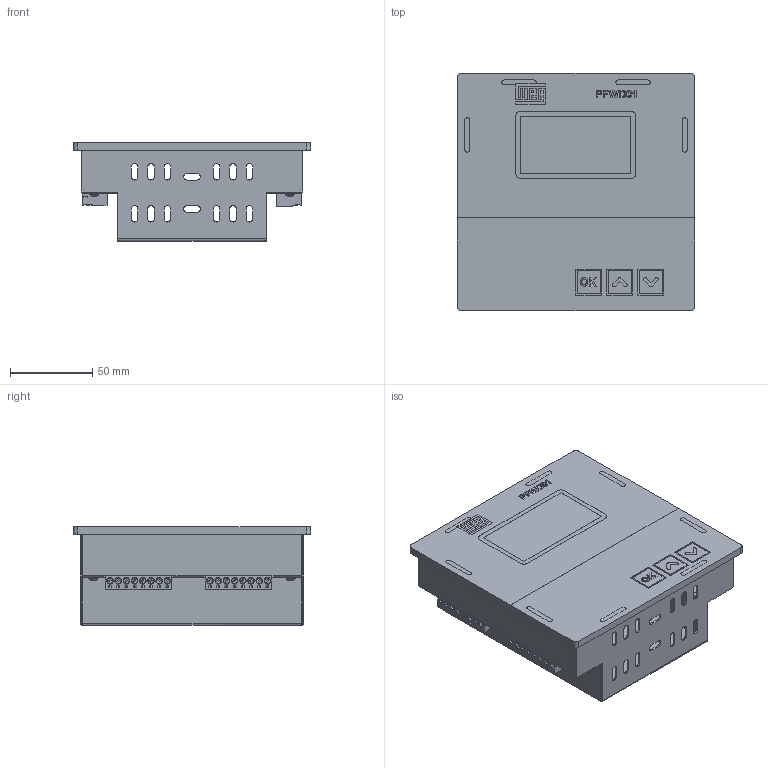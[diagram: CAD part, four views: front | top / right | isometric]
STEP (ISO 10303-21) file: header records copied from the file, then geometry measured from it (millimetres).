
FILE_DESCRIPTION (( 'STEP AP214' ), '1' );
FILE_NAME ('PFWD01-M12.STEP', '2024-08-06T16:47:59', ( '' ), ( '' ), 'SwSTEP 2.0', 'SolidWorks 2022', '' );
FILE_SCHEMA (( 'AUTOMOTIVE_DESIGN' ));
Length unit declared in the file: millimetre
Products named in the file (7): PFWD01-COVER; PFWD01-PANEL; TERM.BLOCK-7.62-04P; PFWD01-M12; PHILLIPS M3x8.stp; TERM.BLOCK-5.0-08P; TERM.BLOCK-5.0-06P.step
Assembly tree (10 placements, depth 2):
  PFWD01-M12
    PFWD01-PANEL
    PFWD01-COVER
    TERM.BLOCK-5.0-06P.step
    TERM.BLOCK-5.0-08P  x2
    TERM.BLOCK-7.62-04P
    PHILLIPS M3x8.stp  x4
Bounding box: 144.6 x 144.6 x 60.29 mm (x, y, z)
Volume: 154643.7 mm3; surface area: 149354.4 mm2
Topology: 10 solids, 10 shells, 3833 faces, 9555 edges, 5990 vertices
Faces by surface type: plane 2105, cylinder 772, bspline 570, torus 266, cone 112, sphere 8
Entity records: 86108 total; most frequent: CARTESIAN_POINT 19387, ORIENTED_EDGE 12190, DIRECTION 11108, EDGE_CURVE 6095, VECTOR 4082, LINE 4082, VERTEX_POINT 3870, AXIS2_PLACEMENT_3D 3513
